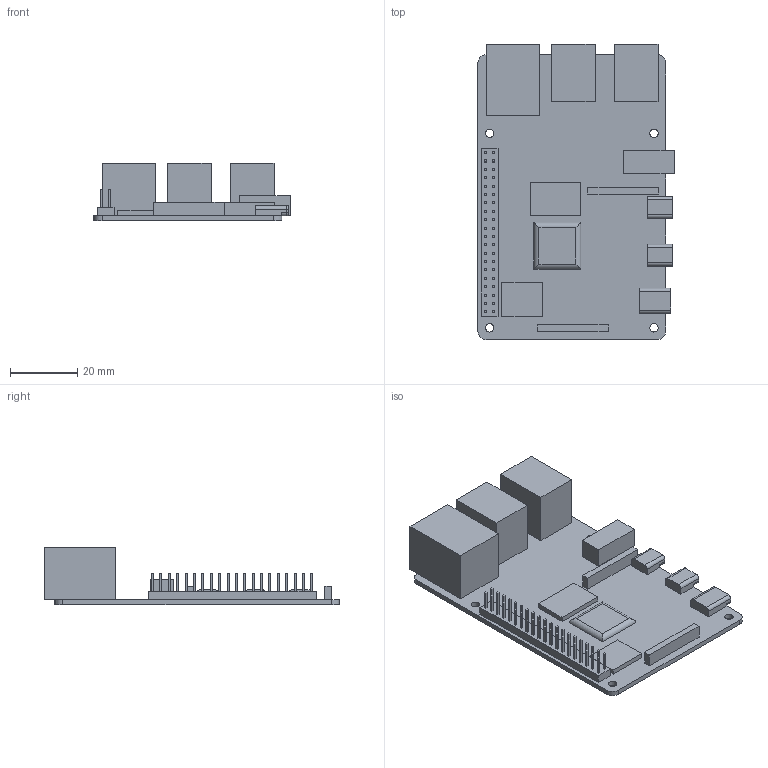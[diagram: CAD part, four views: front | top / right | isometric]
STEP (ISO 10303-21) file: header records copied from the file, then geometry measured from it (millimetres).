
FILE_DESCRIPTION(/* description */ (''),/* implementation_level */ '2;1');
FILE_NAME(/* name */ 'RPI 5.step',/* time_stamp */ '2026-01-14T21:33:31-05:00',/* author */ (''),/* organization */ (''),/* preprocessor_version */ 'ST-DEVELOPER v20.1',/* originating_system */ 'Autodesk Translation Framework v14.21.0.0',/* authorisation */ '');
FILE_SCHEMA (('AUTOMOTIVE_DESIGN { 1 0 10303 214 3 1 1 }'));
Length unit declared in the file: millimetre
Products named in the file (1): RPI 5
Bounding box: 58.5 x 88 x 17.25 mm (x, y, z)
Volume: 15661.8 mm3; surface area: 18356 mm2
Topology: 1 solids, 1 shells, 333 faces, 828 edges, 549 vertices
Faces by surface type: plane 304, cylinder 29
Full cylindrical faces by diameter (mm): 2.5 x4, 3.5 x1
Entity records: 9809 total; most frequent: CARTESIAN_POINT 1711, ORIENTED_EDGE 1656, DIRECTION 1551, EDGE_CURVE 828, LINE 773, VECTOR 773, VERTEX_POINT 549, EDGE_LOOP 393
